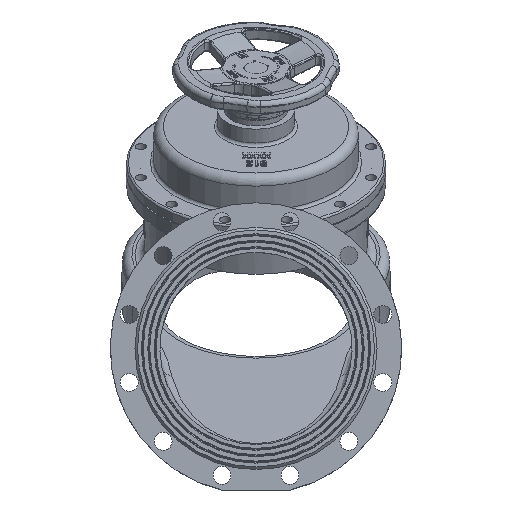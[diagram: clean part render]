
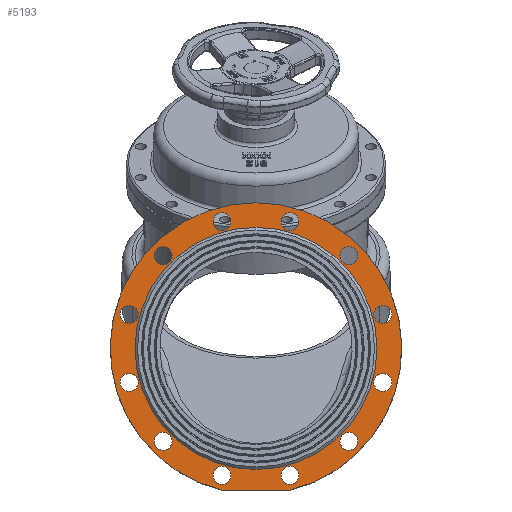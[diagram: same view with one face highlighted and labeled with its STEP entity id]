
A CAD part, left-side view. The second image highlights one B-rep face of the part: STEP entity #5193.
In plain terms, the highlighted planar face has unit normal (-1, 0, 0).
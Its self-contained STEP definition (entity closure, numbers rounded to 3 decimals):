
#5193=ADVANCED_FACE('',(#48231,#48233,#48235,#48237,#48239,#48241,#48243,#48245,
#48247,#48249,#48251,#48253,#48255,#48257),#48259,.T.);
#48231=FACE_BOUND('',#48232,.T.);
#48232=EDGE_LOOP('',(#79777,#79778));
#48233=FACE_BOUND('',#48234,.T.);
#48234=EDGE_LOOP('',(#79779));
#48235=FACE_BOUND('',#48236,.T.);
#48236=EDGE_LOOP('',(#79780));
#48237=FACE_BOUND('',#48238,.T.);
#48238=EDGE_LOOP('',(#79781));
#48239=FACE_BOUND('',#48240,.T.);
#48240=EDGE_LOOP('',(#79782));
#48241=FACE_BOUND('',#48242,.T.);
#48242=EDGE_LOOP('',(#79783));
#48243=FACE_BOUND('',#48244,.T.);
#48244=EDGE_LOOP('',(#79784));
#48245=FACE_BOUND('',#48246,.T.);
#48246=EDGE_LOOP('',(#79785));
#48247=FACE_BOUND('',#48248,.T.);
#48248=EDGE_LOOP('',(#79786));
#48249=FACE_BOUND('',#48250,.T.);
#48250=EDGE_LOOP('',(#79787));
#48251=FACE_BOUND('',#48252,.T.);
#48252=EDGE_LOOP('',(#79788));
#48253=FACE_BOUND('',#48254,.T.);
#48254=EDGE_LOOP('',(#79789));
#48255=FACE_BOUND('',#48256,.T.);
#48256=EDGE_LOOP('',(#79790));
#48257=FACE_BOUND('',#48258,.T.);
#48258=EDGE_LOOP('',(#79791));
#48259=PLANE('',#48260);
#48260=AXIS2_PLACEMENT_3D('',#48261,#48262,#48263);
#48261=CARTESIAN_POINT('',(-12.732,-177.717,0.));
#48262=DIRECTION('',(-1.,0.,0.));
#48263=DIRECTION('',(0.,0.,1.));
#79777=ORIENTED_EDGE('',*,*,#90103,.F.);
#79778=ORIENTED_EDGE('',*,*,#90221,.F.);
#79779=ORIENTED_EDGE('',*,*,#90124,.T.);
#79780=ORIENTED_EDGE('',*,*,#90106,.T.);
#79781=ORIENTED_EDGE('',*,*,#90108,.T.);
#79782=ORIENTED_EDGE('',*,*,#90110,.T.);
#79783=ORIENTED_EDGE('',*,*,#90112,.T.);
#79784=ORIENTED_EDGE('',*,*,#90114,.T.);
#79785=ORIENTED_EDGE('',*,*,#90116,.T.);
#79786=ORIENTED_EDGE('',*,*,#90115,.T.);
#79787=ORIENTED_EDGE('',*,*,#90113,.T.);
#79788=ORIENTED_EDGE('',*,*,#90111,.T.);
#79789=ORIENTED_EDGE('',*,*,#90109,.T.);
#79790=ORIENTED_EDGE('',*,*,#90107,.T.);
#79791=ORIENTED_EDGE('',*,*,#90105,.T.);
#90103=EDGE_CURVE('',#96655,#96657,#96658,.T.);
#90105=EDGE_CURVE('',#96660,#96660,#96661,.F.);
#90106=EDGE_CURVE('',#96662,#96662,#96663,.F.);
#90107=EDGE_CURVE('',#96664,#96664,#96665,.F.);
#90108=EDGE_CURVE('',#96666,#96666,#96667,.F.);
#90109=EDGE_CURVE('',#96668,#96668,#96669,.F.);
#90110=EDGE_CURVE('',#96670,#96670,#96671,.F.);
#90111=EDGE_CURVE('',#96672,#96672,#96673,.F.);
#90112=EDGE_CURVE('',#96674,#96674,#96675,.F.);
#90113=EDGE_CURVE('',#96676,#96676,#96677,.F.);
#90114=EDGE_CURVE('',#96678,#96678,#96679,.F.);
#90115=EDGE_CURVE('',#96680,#96680,#96681,.F.);
#90116=EDGE_CURVE('',#96682,#96682,#96683,.F.);
#90124=EDGE_CURVE('',#96696,#96696,#96697,.F.);
#90221=EDGE_CURVE('',#96657,#96655,#96870,.F.);
#96655=VERTEX_POINT('',#130023);
#96657=VERTEX_POINT('',#130027);
#96658=LINE('',#130028,#130029);
#96660=VERTEX_POINT('',#130034);
#96661=CIRCLE('',#130035,14.);
#96662=VERTEX_POINT('',#130039);
#96663=CIRCLE('',#130040,14.);
#96664=VERTEX_POINT('',#130044);
#96665=CIRCLE('',#130045,14.);
#96666=VERTEX_POINT('',#130049);
#96667=CIRCLE('',#130050,14.);
#96668=VERTEX_POINT('',#130054);
#96669=CIRCLE('',#130055,14.);
#96670=VERTEX_POINT('',#130059);
#96671=CIRCLE('',#130060,14.);
#96672=VERTEX_POINT('',#130064);
#96673=CIRCLE('',#130065,14.);
#96674=VERTEX_POINT('',#130069);
#96675=CIRCLE('',#130070,14.);
#96676=VERTEX_POINT('',#130074);
#96677=CIRCLE('',#130075,14.);
#96678=VERTEX_POINT('',#130079);
#96679=CIRCLE('',#130080,14.);
#96680=VERTEX_POINT('',#130084);
#96681=CIRCLE('',#130085,14.);
#96682=VERTEX_POINT('',#130089);
#96683=CIRCLE('',#130090,14.);
#96696=VERTEX_POINT('',#130185);
#96697=CIRCLE('',#130186,189.);
#96870=CIRCLE('',#133948,227.5);
#130023=CARTESIAN_POINT('',(-12.732,-231.71,-221.));
#130027=CARTESIAN_POINT('',(-12.732,-123.723,-221.));
#130028=CARTESIAN_POINT('',(-12.732,-231.71,-221.));
#130029=VECTOR('',#130030,1.);
#130030=DIRECTION('',(0.,1.,0.));
#130034=CARTESIAN_POINT('',(-12.732,-124.659,184.015));
#130035=AXIS2_PLACEMENT_3D('',#130036,#130037,#130038);
#130036=CARTESIAN_POINT('',(-12.732,-124.659,198.015));
#130037=DIRECTION('',(-1.,0.,0.));
#130038=DIRECTION('',(0.,0.,1.));
#130039=CARTESIAN_POINT('',(-12.732,-230.774,184.015));
#130040=AXIS2_PLACEMENT_3D('',#130041,#130042,#130043);
#130041=CARTESIAN_POINT('',(-12.732,-230.774,198.015));
#130042=DIRECTION('',(-1.,0.,0.));
#130043=DIRECTION('',(0.,0.,1.));
#130044=CARTESIAN_POINT('',(-12.732,-322.673,130.957));
#130045=AXIS2_PLACEMENT_3D('',#130046,#130047,#130048);
#130046=CARTESIAN_POINT('',(-12.732,-322.673,144.957));
#130047=DIRECTION('',(-1.,0.,0.));
#130048=DIRECTION('',(0.,0.,1.));
#130049=CARTESIAN_POINT('',(-12.732,-375.731,39.058));
#130050=AXIS2_PLACEMENT_3D('',#130051,#130052,#130053);
#130051=CARTESIAN_POINT('',(-12.732,-375.731,53.058));
#130052=DIRECTION('',(-1.,0.,0.));
#130053=DIRECTION('',(0.,0.,1.));
#130054=CARTESIAN_POINT('',(-12.732,-375.731,-67.058));
#130055=AXIS2_PLACEMENT_3D('',#130056,#130057,#130058);
#130056=CARTESIAN_POINT('',(-12.732,-375.731,-53.058));
#130057=DIRECTION('',(-1.,0.,0.));
#130058=DIRECTION('',(0.,0.,1.));
#130059=CARTESIAN_POINT('',(-12.732,-322.673,-158.957));
#130060=AXIS2_PLACEMENT_3D('',#130061,#130062,#130063);
#130061=CARTESIAN_POINT('',(-12.732,-322.673,-144.957));
#130062=DIRECTION('',(-1.,0.,0.));
#130063=DIRECTION('',(0.,0.,1.));
#130064=CARTESIAN_POINT('',(-12.732,-230.774,-212.015));
#130065=AXIS2_PLACEMENT_3D('',#130066,#130067,#130068);
#130066=CARTESIAN_POINT('',(-12.732,-230.774,-198.015));
#130067=DIRECTION('',(-1.,0.,0.));
#130068=DIRECTION('',(0.,0.,1.));
#130069=CARTESIAN_POINT('',(-12.732,-124.659,-212.015));
#130070=AXIS2_PLACEMENT_3D('',#130071,#130072,#130073);
#130071=CARTESIAN_POINT('',(-12.732,-124.659,-198.015));
#130072=DIRECTION('',(-1.,0.,0.));
#130073=DIRECTION('',(0.,0.,1.));
#130074=CARTESIAN_POINT('',(-12.732,-32.76,-158.957));
#130075=AXIS2_PLACEMENT_3D('',#130076,#130077,#130078);
#130076=CARTESIAN_POINT('',(-12.732,-32.76,-144.957));
#130077=DIRECTION('',(-1.,0.,0.));
#130078=DIRECTION('',(0.,0.,1.));
#130079=CARTESIAN_POINT('',(-12.732,20.298,-67.058));
#130080=AXIS2_PLACEMENT_3D('',#130081,#130082,#130083);
#130081=CARTESIAN_POINT('',(-12.732,20.298,-53.058));
#130082=DIRECTION('',(-1.,0.,0.));
#130083=DIRECTION('',(0.,0.,1.));
#130084=CARTESIAN_POINT('',(-12.732,20.298,39.058));
#130085=AXIS2_PLACEMENT_3D('',#130086,#130087,#130088);
#130086=CARTESIAN_POINT('',(-12.732,20.298,53.058));
#130087=DIRECTION('',(-1.,0.,0.));
#130088=DIRECTION('',(0.,0.,1.));
#130089=CARTESIAN_POINT('',(-12.732,-32.76,130.957));
#130090=AXIS2_PLACEMENT_3D('',#130091,#130092,#130093);
#130091=CARTESIAN_POINT('',(-12.732,-32.76,144.957));
#130092=DIRECTION('',(-1.,0.,0.));
#130093=DIRECTION('',(0.,0.,1.));
#130185=CARTESIAN_POINT('',(-12.732,-177.717,189.));
#130186=AXIS2_PLACEMENT_3D('',#130187,#130188,#130189);
#130187=CARTESIAN_POINT('',(-12.732,-177.717,0.));
#130188=DIRECTION('',(-1.,0.,0.));
#130189=DIRECTION('',(0.,0.,1.));
#133948=AXIS2_PLACEMENT_3D('',#133949,#133950,#133951);
#133949=CARTESIAN_POINT('',(-12.732,-177.717,0.));
#133950=DIRECTION('',(-1.,0.,0.));
#133951=DIRECTION('',(0.,-0.237,-0.971));
